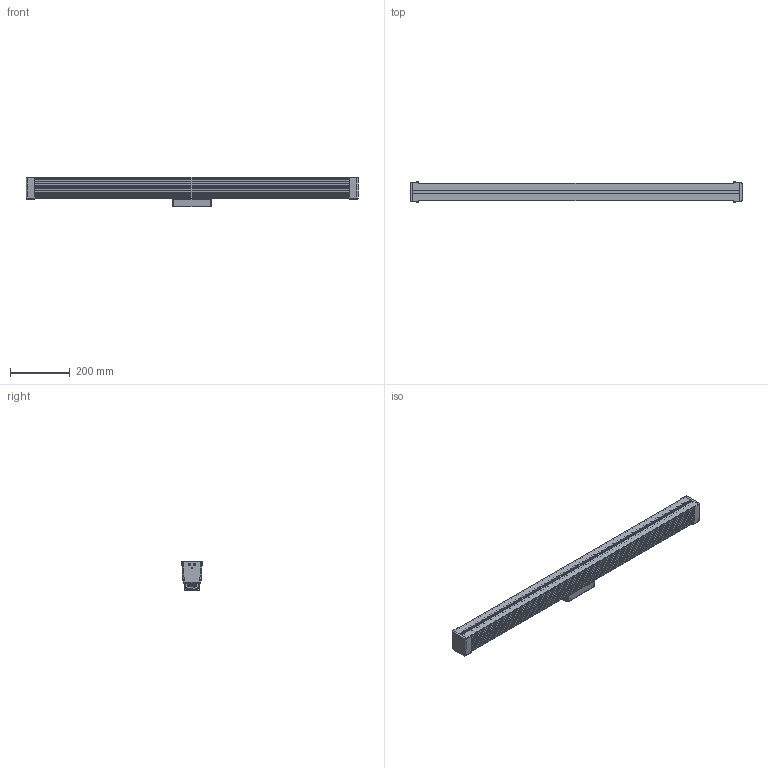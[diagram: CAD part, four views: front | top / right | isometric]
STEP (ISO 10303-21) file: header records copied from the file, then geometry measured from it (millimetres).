
FILE_DESCRIPTION (( 'STEP AP214' ), '1' );
FILE_NAME ('975L-4809-01P.STEP', '2020-07-23T21:31:29', ( '' ), ( '' ), 'SwSTEP 2.0', 'SolidWorks 2018', '' );
FILE_SCHEMA (( 'AUTOMOTIVE_DESIGN' ));
Length unit declared in the file: inch
Products named in the file (1): 975L-4809-01P
Bounding box: 1114.04 x 67.74 x 100.02 mm (x, y, z)
Volume: 2290200.3 mm3; surface area: 828055.1 mm2
Topology: 4 solids, 7 shells, 5034 faces, 11930 edges, 7212 vertices
Faces by surface type: plane 2028, cylinder 1882, bspline 771, cone 303, torus 32, sphere 18
Entity records: 165390 total; most frequent: CARTESIAN_POINT 58473, ORIENTED_EDGE 23836, DIRECTION 19362, EDGE_CURVE 11918, VERTEX_POINT 7212, AXIS2_PLACEMENT_3D 6612, LINE 6138, VECTOR 6138
